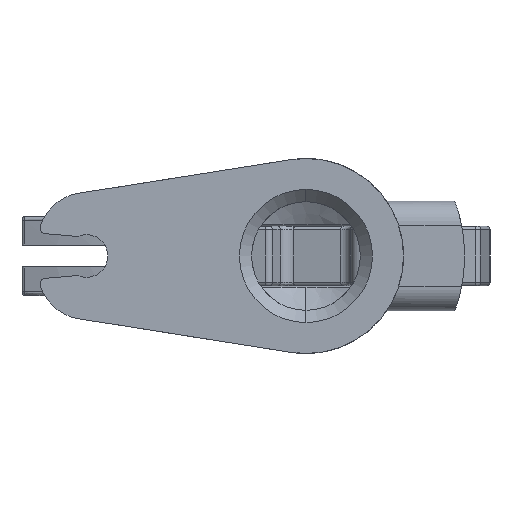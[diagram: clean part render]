
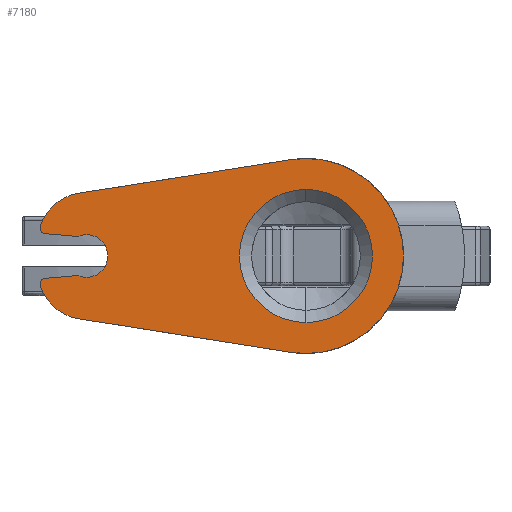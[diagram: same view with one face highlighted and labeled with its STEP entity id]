
A CAD part, front view. The second image highlights one B-rep face of the part: STEP entity #7180.
In plain terms, the highlighted planar face has unit normal (0, -1, 0) as drawn and (0, 0, -1) by its records, which use the part's own axes.
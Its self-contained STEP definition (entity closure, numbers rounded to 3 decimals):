
#36 = DIRECTION ( 'NONE',  ( 1., 0., 0. ) ) ;
#134 = DIRECTION ( 'NONE',  ( 0., 0., -1. ) ) ;
#175 = PLANE ( 'NONE',  #1295 ) ;
#278 = VERTEX_POINT ( 'NONE', #2530 ) ;
#293 = ORIENTED_EDGE ( 'NONE', *, *, #7776, .T. ) ;
#294 = VERTEX_POINT ( 'NONE', #836 ) ;
#311 = CIRCLE ( 'NONE', #3036, 5.458 ) ;
#757 = CIRCLE ( 'NONE', #4197, 4. ) ;
#820 = CARTESIAN_POINT ( 'NONE',  ( 0., 0., 0. ) ) ;
#836 = CARTESIAN_POINT ( 'NONE',  ( -18.626, 5.15, 0. ) ) ;
#953 = CARTESIAN_POINT ( 'NONE',  ( -18., 0., 0. ) ) ;
#987 = LINE ( 'NONE', #7299, #5713 ) ;
#1198 = EDGE_LOOP ( 'NONE', ( #10562, #10971 ) ) ;
#1227 = DIRECTION ( 'NONE',  ( -0.988, 0.156, 0. ) ) ;
#1262 = CIRCLE ( 'NONE', #2762, 4. ) ;
#1295 = AXIS2_PLACEMENT_3D ( 'NONE', #6951, #134, #4384 ) ;
#1359 = CARTESIAN_POINT ( 'NONE',  ( -18., 0., 0. ) ) ;
#1381 = DIRECTION ( 'NONE',  ( 1., 0., 0. ) ) ;
#1457 = AXIS2_PLACEMENT_3D ( 'NONE', #3580, #3537, #36 ) ;
#1527 = ORIENTED_EDGE ( 'NONE', *, *, #7235, .F. ) ;
#1538 = DIRECTION ( 'NONE',  ( 0., 0., -1. ) ) ;
#1607 = CARTESIAN_POINT ( 'NONE',  ( -21.356, -1.832, 0. ) ) ;
#1682 = VERTEX_POINT ( 'NONE', #7448 ) ;
#1798 = EDGE_CURVE ( 'NONE', #9218, #10659, #2041, .T. ) ;
#1938 = DIRECTION ( 'NONE',  ( 0., 0., 1. ) ) ;
#2032 = CARTESIAN_POINT ( 'NONE',  ( -18.626, -5.15, 0. ) ) ;
#2041 = LINE ( 'NONE', #6146, #3130 ) ;
#2122 = DIRECTION ( 'NONE',  ( 1., 0., 0. ) ) ;
#2141 = CARTESIAN_POINT ( 'NONE',  ( -16.25, 0., 0. ) ) ;
#2170 = DIRECTION ( 'NONE',  ( 0., 0., 1. ) ) ;
#2417 = CARTESIAN_POINT ( 'NONE',  ( -18.709, 1.6, 0. ) ) ;
#2530 = CARTESIAN_POINT ( 'NONE',  ( -21.786, 2.491, 0. ) ) ;
#2551 = DIRECTION ( 'NONE',  ( 0., 1., 0. ) ) ;
#2600 = CIRCLE ( 'NONE', #10911, 8. ) ;
#2615 = CARTESIAN_POINT ( 'NONE',  ( 0., 5.458, 0. ) ) ;
#2648 = ORIENTED_EDGE ( 'NONE', *, *, #8073, .F. ) ;
#2714 = DIRECTION ( 'NONE',  ( 0.996, 0.087, 0. ) ) ;
#2721 = CIRCLE ( 'NONE', #5436, 1.75 ) ;
#2762 = AXIS2_PLACEMENT_3D ( 'NONE', #8577, #5188, #6015 ) ;
#2892 = ORIENTED_EDGE ( 'NONE', *, *, #9051, .F. ) ;
#2904 = CARTESIAN_POINT ( 'NONE',  ( 0., -5.458, 0. ) ) ;
#2984 = DIRECTION ( 'NONE',  ( 0., 0., 1. ) ) ;
#2989 = EDGE_CURVE ( 'NONE', #5398, #10376, #4462, .T. ) ;
#3036 = AXIS2_PLACEMENT_3D ( 'NONE', #8094, #2984, #8931 ) ;
#3130 = VECTOR ( 'NONE', #2714, 1000. ) ;
#3232 = CARTESIAN_POINT ( 'NONE',  ( -18.709, 1.6, 0. ) ) ;
#3236 = EDGE_CURVE ( 'NONE', #10659, #10608, #10286, .T. ) ;
#3387 = CARTESIAN_POINT ( 'NONE',  ( -18.626, 5.15, 0. ) ) ;
#3537 = DIRECTION ( 'NONE',  ( 0., 0., 1. ) ) ;
#3580 = CARTESIAN_POINT ( 'NONE',  ( 0., 0., 0. ) ) ;
#3721 = VERTEX_POINT ( 'NONE', #2032 ) ;
#3756 = AXIS2_PLACEMENT_3D ( 'NONE', #6987, #9541, #7745 ) ;
#4197 = AXIS2_PLACEMENT_3D ( 'NONE', #9976, #1538, #1381 ) ;
#4384 = DIRECTION ( 'NONE',  ( -1., 0., 0. ) ) ;
#4462 = CIRCLE ( 'NONE', #6288, 5.458 ) ;
#4468 = DIRECTION ( 'NONE',  ( 0., 0., 1. ) ) ;
#4549 = EDGE_CURVE ( 'NONE', #1682, #3721, #987, .T. ) ;
#4618 = LINE ( 'NONE', #2417, #6643 ) ;
#4864 = CARTESIAN_POINT ( 'NONE',  ( -18.709, -1.6, 0. ) ) ;
#5045 = VERTEX_POINT ( 'NONE', #7137 ) ;
#5188 = DIRECTION ( 'NONE',  ( 0., 0., -1. ) ) ;
#5351 = VERTEX_POINT ( 'NONE', #10213 ) ;
#5361 = EDGE_CURVE ( 'NONE', #3721, #6162, #1262, .T. ) ;
#5376 = EDGE_CURVE ( 'NONE', #10608, #10147, #2721, .T. ) ;
#5398 = VERTEX_POINT ( 'NONE', #2615 ) ;
#5436 = AXIS2_PLACEMENT_3D ( 'NONE', #953, #1938, #10385 ) ;
#5488 = EDGE_CURVE ( 'NONE', #1682, #5351, #2600, .T. ) ;
#5713 = VECTOR ( 'NONE', #1227, 1000. ) ;
#5929 = DIRECTION ( 'NONE',  ( 0., 0., 1. ) ) ;
#6015 = DIRECTION ( 'NONE',  ( 1., 0., 0. ) ) ;
#6146 = CARTESIAN_POINT ( 'NONE',  ( -21.356, -1.832, 0. ) ) ;
#6162 = VERTEX_POINT ( 'NONE', #10406 ) ;
#6173 = VERTEX_POINT ( 'NONE', #6999 ) ;
#6288 = AXIS2_PLACEMENT_3D ( 'NONE', #820, #8551, #2551 ) ;
#6360 = FACE_BOUND ( 'NONE', #1198, .T. ) ;
#6374 = ORIENTED_EDGE ( 'NONE', *, *, #4549, .T. ) ;
#6409 = AXIS2_PLACEMENT_3D ( 'NONE', #8167, #5929, #7475 ) ;
#6643 = VECTOR ( 'NONE', #6743, 1000. ) ;
#6743 = DIRECTION ( 'NONE',  ( -0.996, 0.087, 0. ) ) ;
#6763 = CIRCLE ( 'NONE', #1457, 8. ) ;
#6935 = VECTOR ( 'NONE', #7806, 1000. ) ;
#6951 = CARTESIAN_POINT ( 'NONE',  ( 0., 0., 0. ) ) ;
#6987 = CARTESIAN_POINT ( 'NONE',  ( -21.312, -2.33, 0. ) ) ;
#6999 = CARTESIAN_POINT ( 'NONE',  ( -21.356, 1.832, 0. ) ) ;
#7016 = FACE_OUTER_BOUND ( 'NONE', #9277, .T. ) ;
#7086 = EDGE_CURVE ( 'NONE', #10147, #6173, #4618, .T. ) ;
#7137 = CARTESIAN_POINT ( 'NONE',  ( -1.251, 7.902, 0. ) ) ;
#7180 = ADVANCED_FACE ( 'NONE', ( #6360, #7016 ), #175, .T. ) ;
#7226 = EDGE_CURVE ( 'NONE', #5351, #5045, #6763, .T. ) ;
#7235 = EDGE_CURVE ( 'NONE', #9218, #6162, #7417, .T. ) ;
#7268 = DIRECTION ( 'NONE',  ( 1., 0., 0. ) ) ;
#7299 = CARTESIAN_POINT ( 'NONE',  ( -1.251, -7.902, 0. ) ) ;
#7417 = CIRCLE ( 'NONE', #3756, 0.5 ) ;
#7448 = CARTESIAN_POINT ( 'NONE',  ( -1.251, -7.902, 0. ) ) ;
#7475 = DIRECTION ( 'NONE',  ( 1., 0., 0. ) ) ;
#7745 = DIRECTION ( 'NONE',  ( 1., 0., 0. ) ) ;
#7776 = EDGE_CURVE ( 'NONE', #278, #294, #757, .T. ) ;
#7806 = DIRECTION ( 'NONE',  ( -0.988, -0.156, 0. ) ) ;
#8073 = EDGE_CURVE ( 'NONE', #5045, #294, #11040, .T. ) ;
#8094 = CARTESIAN_POINT ( 'NONE',  ( 0., 0., 0. ) ) ;
#8167 = CARTESIAN_POINT ( 'NONE',  ( -21.312, 2.33, 0. ) ) ;
#8268 = ORIENTED_EDGE ( 'NONE', *, *, #5376, .T. ) ;
#8290 = ORIENTED_EDGE ( 'NONE', *, *, #5488, .F. ) ;
#8551 = DIRECTION ( 'NONE',  ( 0., 0., 1. ) ) ;
#8577 = CARTESIAN_POINT ( 'NONE',  ( -18., -1.199, 0. ) ) ;
#8931 = DIRECTION ( 'NONE',  ( 0., 1., 0. ) ) ;
#9051 = EDGE_CURVE ( 'NONE', #278, #6173, #10215, .T. ) ;
#9218 = VERTEX_POINT ( 'NONE', #1607 ) ;
#9277 = EDGE_LOOP ( 'NONE', ( #9395, #8268, #9292, #2892, #293, #2648, #10986, #8290, #6374, #10816, #1527, #9501 ) ) ;
#9292 = ORIENTED_EDGE ( 'NONE', *, *, #7086, .T. ) ;
#9395 = ORIENTED_EDGE ( 'NONE', *, *, #3236, .T. ) ;
#9501 = ORIENTED_EDGE ( 'NONE', *, *, #1798, .T. ) ;
#9527 = CARTESIAN_POINT ( 'NONE',  ( 0., 0., 0. ) ) ;
#9541 = DIRECTION ( 'NONE',  ( 0., 0., 1. ) ) ;
#9976 = CARTESIAN_POINT ( 'NONE',  ( -18., 1.199, 0. ) ) ;
#10009 = EDGE_CURVE ( 'NONE', #10376, #5398, #311, .T. ) ;
#10147 = VERTEX_POINT ( 'NONE', #3232 ) ;
#10213 = CARTESIAN_POINT ( 'NONE',  ( 8., 0., 0. ) ) ;
#10215 = CIRCLE ( 'NONE', #6409, 0.5 ) ;
#10239 = AXIS2_PLACEMENT_3D ( 'NONE', #1359, #2170, #7268 ) ;
#10286 = CIRCLE ( 'NONE', #10239, 1.75 ) ;
#10376 = VERTEX_POINT ( 'NONE', #2904 ) ;
#10385 = DIRECTION ( 'NONE',  ( 1., 0., 0. ) ) ;
#10406 = CARTESIAN_POINT ( 'NONE',  ( -21.786, -2.491, 0. ) ) ;
#10562 = ORIENTED_EDGE ( 'NONE', *, *, #2989, .T. ) ;
#10608 = VERTEX_POINT ( 'NONE', #2141 ) ;
#10659 = VERTEX_POINT ( 'NONE', #4864 ) ;
#10816 = ORIENTED_EDGE ( 'NONE', *, *, #5361, .T. ) ;
#10911 = AXIS2_PLACEMENT_3D ( 'NONE', #9527, #4468, #2122 ) ;
#10971 = ORIENTED_EDGE ( 'NONE', *, *, #10009, .T. ) ;
#10986 = ORIENTED_EDGE ( 'NONE', *, *, #7226, .F. ) ;
#11040 = LINE ( 'NONE', #3387, #6935 ) ;
